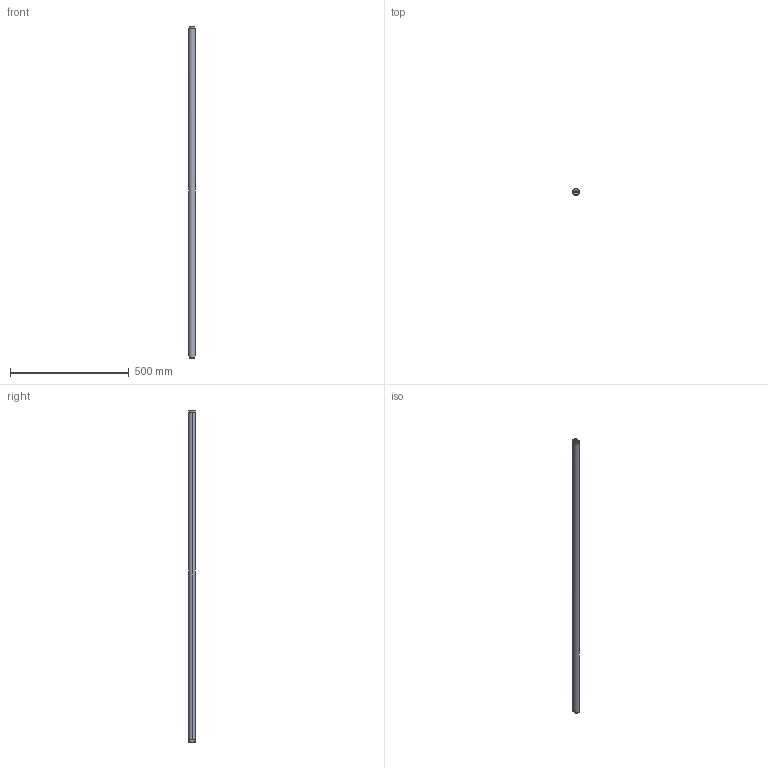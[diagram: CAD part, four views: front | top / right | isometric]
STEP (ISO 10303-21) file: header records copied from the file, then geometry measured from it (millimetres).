
FILE_DESCRIPTION (( 'STEP AP214' ), '1' );
FILE_NAME ('PL01-28x1400!1320.STEP', '2004-06-16T08:14:53', ( 'Mitarbeiter' ), ( 'Firma' ), 'SwSTEP 2.0', 'SolidWorks 2001287', '' );
FILE_SCHEMA (( 'AUTOMOTIVE_DESIGN' ));
Length unit declared in the file: millimetre
Products named in the file (1): PL01-28x1400!1320
Bounding box: 28 x 28 x 1400 mm (x, y, z)
Volume: 858653.2 mm3; surface area: 125107.3 mm2
Topology: 1 solids, 1 shells, 41 faces, 104 edges, 68 vertices
Faces by surface type: plane 15, cylinder 10, cone 8, torus 8
Entity records: 1353 total; most frequent: CARTESIAN_POINT 374, ORIENTED_EDGE 208, DIRECTION 192, EDGE_CURVE 104, AXIS2_PLACEMENT_3D 78, VERTEX_POINT 68, EDGE_LOOP 44, ADVANCED_FACE 41
